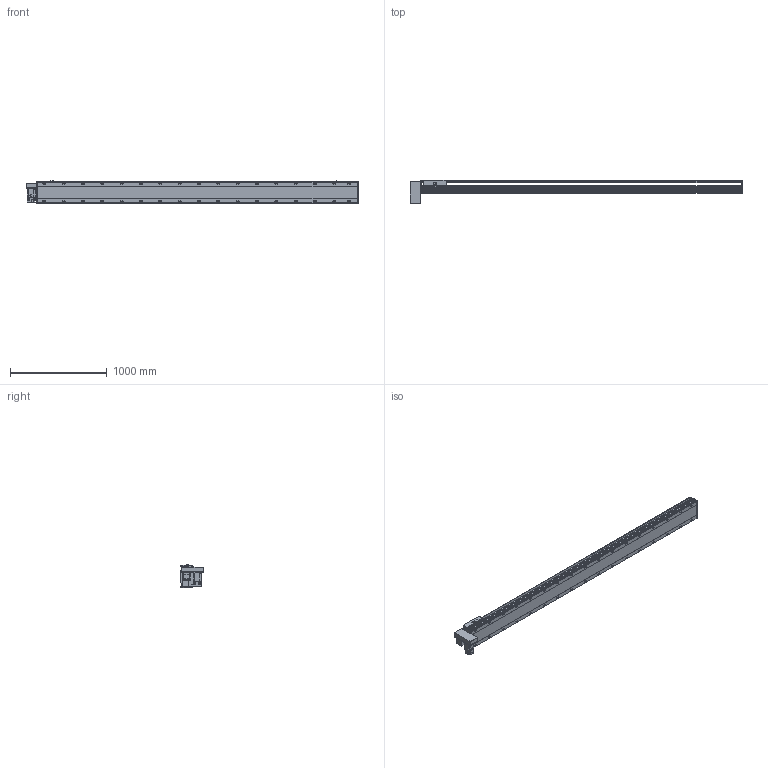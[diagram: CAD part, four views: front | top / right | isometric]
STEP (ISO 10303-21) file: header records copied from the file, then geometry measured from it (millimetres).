
FILE_DESCRIPTION(/* description */ ('STEP AP214'),/* implementation_level */ '2;1');
FILE_NAME(/* name */ 'PBS220-P40-S2950-RD-T75-C1-N(0)',/* time_stamp */ '2022-06-13T02:47:20+02:00',/* author */ ('License CC BY-ND 4.0'),/* organization */ ('CADENAS'),/* preprocessor_version */ 'ST-DEVELOPER v18.102',/* originating_system */ 'PARTsolutions',/* authorisation */ ' ');
FILE_SCHEMA (('AUTOMOTIVE_DESIGN {1 0 10303 214 3 1 1}'));
Length unit declared in the file: millimetre
Products named in the file (7): PBS220-P40-S2950-RD-T75-C1-N(0); PBS220_sensor; PBS220_plant; PBS220_sliser; T75-p1; PBS220T-RD_motors; PBS220-S2950()_body
Assembly tree (8 placements, depth 2):
  PBS220-P40-S2950-RD-T75-C1-N(0)
    PBS220_sensor  x3
    PBS220_plant
    PBS220_sliser
    T75-p1
    PBS220T-RD_motors
    PBS220-S2950()_body
Bounding box: 3434 x 239 x 238.5 mm (x, y, z)
Volume: 47719399 mm3; surface area: 4334950.5 mm2
Topology: 8 solids, 8 shells, 1022 faces, 2648 edges, 1720 vertices
Faces by surface type: plane 634, cylinder 330, cone 58
Full cylindrical faces by diameter (mm): 2.013 x4, 4.5 x14, 4.917 x4, 6 x7, 6.647 x8, 8 x10, 8.376 x34, 8.5 x34, 10 x6, 14 x34, 38 x2, 40 x1, 70 x1
Entity records: 28437 total; most frequent: CARTESIAN_POINT 5086, DIRECTION 4941, ORIENTED_EDGE 4430, EDGE_CURVE 2215, AXIS2_PLACEMENT_3D 1789, VERTEX_POINT 1560, LINE 1363, VECTOR 1363
